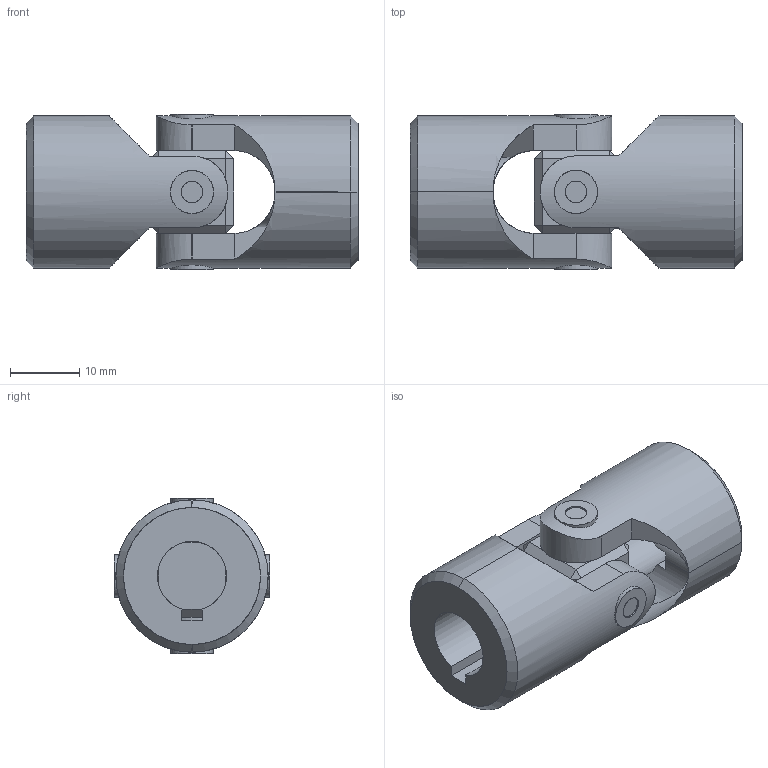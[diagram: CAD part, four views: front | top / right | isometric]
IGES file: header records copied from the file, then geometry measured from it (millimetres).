
Start section: SolidWorks IGES file using analytic representation for surfaces
Global section: file name: C:\Users\IanO\Desktop\R3690_v2\R3690_v2_20231020_IGES\R3690.010-KW.igs; native system: SolidWorks 2019; preprocessor: SolidWorks 2019; author: IanO; date: 231020.152424; units: millimetre
Bounding box: 48 x 22.44 x 22.44 mm (x, y, z)
Surface area: 7561.2 mm2 (no closed solid volume)
Topology: 0 solids, 0 shells, 110 faces, 2152 edges, 2152 vertices
Faces by surface type: bspline 62, revolution 48
